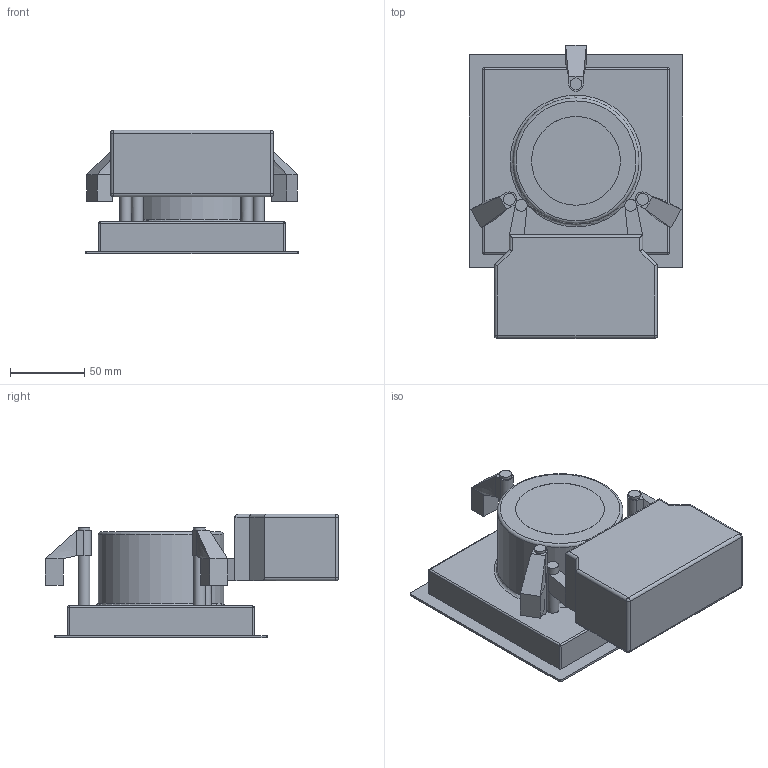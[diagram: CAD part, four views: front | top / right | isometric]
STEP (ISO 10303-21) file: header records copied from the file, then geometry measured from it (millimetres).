
FILE_DESCRIPTION(/* description */ (''),/* implementation_level */ '2;1');
FILE_NAME(/* name */ 'DE-140q.stp',/* time_stamp */ '2024-09-24T15:13:58+02:00',/* author */ ('d.streicher'),/* organization */ (''),/* preprocessor_version */ 'ST-DEVELOPER v20',/* originating_system */ 'Autodesk Inventor 2025',/* authorisation */ '');
FILE_SCHEMA (('AUTOMOTIVE_DESIGN { 1 0 10303 214 3 1 1 }'));
Length unit declared in the file: millimetre
Products named in the file (1): DE-140q
Bounding box: 144 x 198 x 83.5 mm (x, y, z)
Volume: 998295.9 mm3; surface area: 109056.5 mm2
Topology: 1 solids, 1 shells, 131 faces, 308 edges, 198 vertices
Faces by surface type: plane 77, cylinder 38, sphere 8, bspline 6, torus 2
Full cylindrical faces by diameter (mm): 8 x8, 60 x1, 85 x1
Entity records: 3981 total; most frequent: CARTESIAN_POINT 742, DIRECTION 640, ORIENTED_EDGE 600, EDGE_CURVE 300, AXIS2_PLACEMENT_3D 216, LINE 208, VECTOR 208, VERTEX_POINT 180
